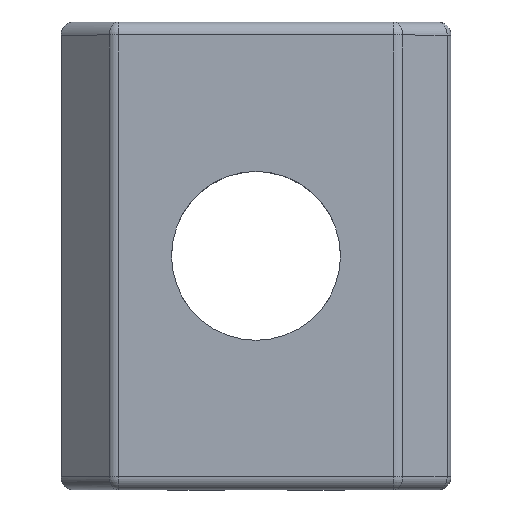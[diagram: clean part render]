
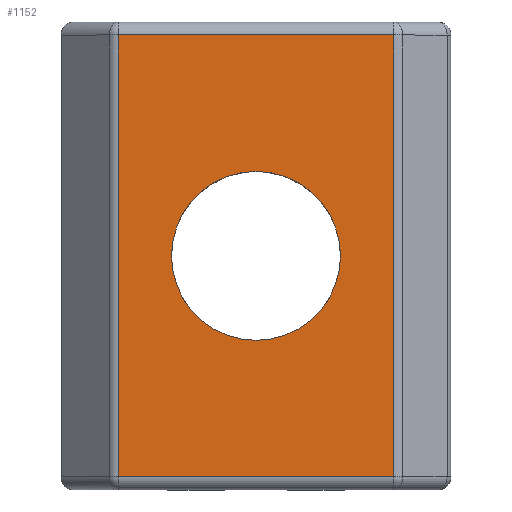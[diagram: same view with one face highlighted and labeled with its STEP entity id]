
A CAD part, top view. The second image highlights one B-rep face of the part: STEP entity #1152.
In plain terms, the highlighted planar face has unit normal (0, 0, 1).
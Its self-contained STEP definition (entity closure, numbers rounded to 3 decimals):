
#35 = EDGE_CURVE ( 'NONE', #1681, #539, #365, .T. ) ;
#219 = EDGE_CURVE ( 'NONE', #1300, #1231, #2140, .T. ) ;
#228 = DIRECTION ( 'NONE',  ( 0., 0., 1. ) ) ;
#240 = CARTESIAN_POINT ( 'NONE',  ( 7.15, -9., 1.528 ) ) ;
#246 = ORIENTED_EDGE ( 'NONE', *, *, #1246, .T. ) ;
#278 = EDGE_CURVE ( 'NONE', #539, #1681, #509, .T. ) ;
#339 = CARTESIAN_POINT ( 'NONE',  ( -1.393, -18., 1.528 ) ) ;
#365 = CIRCLE ( 'NONE', #1555, 3.25 ) ;
#370 = CARTESIAN_POINT ( 'NONE',  ( 9.193, -18., 1.528 ) ) ;
#421 = ORIENTED_EDGE ( 'NONE', *, *, #278, .T. ) ;
#447 = VECTOR ( 'NONE', #2012, 1000. ) ;
#509 = CIRCLE ( 'NONE', #676, 3.25 ) ;
#539 = VERTEX_POINT ( 'NONE', #240 ) ;
#559 = FACE_OUTER_BOUND ( 'NONE', #995, .T. ) ;
#666 = CARTESIAN_POINT ( 'NONE',  ( 3.9, -9., 1.528 ) ) ;
#676 = AXIS2_PLACEMENT_3D ( 'NONE', #931, #2195, #777 ) ;
#777 = DIRECTION ( 'NONE',  ( 1., 0., 0. ) ) ;
#779 = CARTESIAN_POINT ( 'NONE',  ( -1.6, -18., 1.528 ) ) ;
#845 = DIRECTION ( 'NONE',  ( 0., 0., -1. ) ) ;
#896 = DIRECTION ( 'NONE',  ( 0., -1., 0. ) ) ;
#931 = CARTESIAN_POINT ( 'NONE',  ( 3.9, -9., 1.528 ) ) ;
#973 = LINE ( 'NONE', #1403, #447 ) ;
#995 = EDGE_LOOP ( 'NONE', ( #246, #1718, #1563, #2057 ) ) ;
#1021 = VECTOR ( 'NONE', #1050, 1000. ) ;
#1041 = VERTEX_POINT ( 'NONE', #1321 ) ;
#1050 = DIRECTION ( 'NONE',  ( -1., 0., 0. ) ) ;
#1084 = VERTEX_POINT ( 'NONE', #1682 ) ;
#1120 = CARTESIAN_POINT ( 'NONE',  ( 9.193, -0.5, 1.528 ) ) ;
#1123 = AXIS2_PLACEMENT_3D ( 'NONE', #779, #228, #2197 ) ;
#1152 = ADVANCED_FACE ( 'NONE', ( #559, #1674 ), #1667, .T. ) ;
#1231 = VERTEX_POINT ( 'NONE', #1120 ) ;
#1246 = EDGE_CURVE ( 'NONE', #1041, #1300, #973, .T. ) ;
#1300 = VERTEX_POINT ( 'NONE', #1327 ) ;
#1321 = CARTESIAN_POINT ( 'NONE',  ( -1.393, -17.5, 1.528 ) ) ;
#1327 = CARTESIAN_POINT ( 'NONE',  ( 9.193, -17.5, 1.528 ) ) ;
#1359 = ORIENTED_EDGE ( 'NONE', *, *, #35, .T. ) ;
#1362 = LINE ( 'NONE', #1916, #1021 ) ;
#1403 = CARTESIAN_POINT ( 'NONE',  ( -1.6, -17.5, 1.528 ) ) ;
#1419 = EDGE_CURVE ( 'NONE', #1084, #1041, #2103, .T. ) ;
#1530 = CARTESIAN_POINT ( 'NONE',  ( 0.65, -9., 1.528 ) ) ;
#1555 = AXIS2_PLACEMENT_3D ( 'NONE', #666, #845, #2090 ) ;
#1563 = ORIENTED_EDGE ( 'NONE', *, *, #2274, .T. ) ;
#1667 = PLANE ( 'NONE',  #1123 ) ;
#1674 = FACE_BOUND ( 'NONE', #2224, .T. ) ;
#1681 = VERTEX_POINT ( 'NONE', #1530 ) ;
#1682 = CARTESIAN_POINT ( 'NONE',  ( -1.393, -0.5, 1.528 ) ) ;
#1718 = ORIENTED_EDGE ( 'NONE', *, *, #219, .T. ) ;
#1840 = VECTOR ( 'NONE', #896, 1000. ) ;
#1916 = CARTESIAN_POINT ( 'NONE',  ( -1.6, -0.5, 1.528 ) ) ;
#2012 = DIRECTION ( 'NONE',  ( 1., 0., 0. ) ) ;
#2057 = ORIENTED_EDGE ( 'NONE', *, *, #1419, .T. ) ;
#2090 = DIRECTION ( 'NONE',  ( 1., 0., 0. ) ) ;
#2103 = LINE ( 'NONE', #339, #1840 ) ;
#2140 = LINE ( 'NONE', #370, #2260 ) ;
#2164 = DIRECTION ( 'NONE',  ( 0., 1., 0. ) ) ;
#2195 = DIRECTION ( 'NONE',  ( 0., 0., -1. ) ) ;
#2197 = DIRECTION ( 'NONE',  ( 1., 0., 0. ) ) ;
#2224 = EDGE_LOOP ( 'NONE', ( #1359, #421 ) ) ;
#2260 = VECTOR ( 'NONE', #2164, 1000. ) ;
#2274 = EDGE_CURVE ( 'NONE', #1231, #1084, #1362, .T. ) ;
